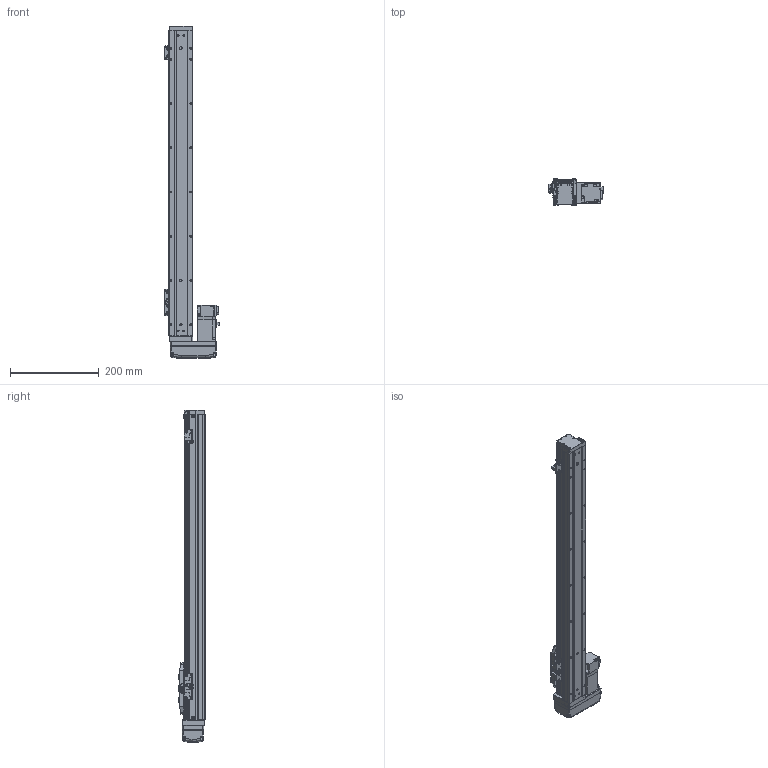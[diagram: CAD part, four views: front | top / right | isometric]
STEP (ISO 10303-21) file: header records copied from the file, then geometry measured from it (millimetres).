
FILE_DESCRIPTION (( 'STEP AP203' ), '1' );
FILE_NAME ('GTH5-550-BR-M10-C4.step', '2022-09-23T00:51:33', ( '微软用户' ), ( '微软中国' ), 'SwSTEP 2.0', 'SolidWorks 2020', '' );
FILE_SCHEMA (( 'CONFIG_CONTROL_DESIGN' ));
Length unit declared in the file: millimetre
Products named in the file (19): GTH50-006; GTH50-023; HG-KR13; GTH50-004; GBT 70.3-M3℅6; GBT 70.1-M3℅6; GTH50-027-1_BTHA50-027-2; BTH-M3X5X6; GBT96.1-2002 3×0.8; GTH50-026; GTH50-001_550; GTH50-024; GTH5-550-BR-M10-C4; GBT 70.1-M4×16; GBT 70.1-M2.5×6; GTH50-003; GTH50-028; GTH50-013; GTH50-022-1
Assembly tree (57 placements, depth 2):
  GTH5-550-BR-M10-C4
    GTH50-006
    GTH50-004
    GBT 70.3-M3℅6  x4
    BTH-M3X5X6  x8
    GTH50-001_550
    GBT 70.1-M4×16  x8
    GTH50-003
    GTH50-013
    GTH50-023  x3
    GBT 70.1-M3℅6  x12
    GBT96.1-2002 3×0.8  x6
    GTH50-024  x3
    GBT 70.1-M2.5×6  x2
    GTH50-028  x2
    GTH50-022-1
    HG-KR13
    GTH50-027-1_BTHA50-027-2
    GTH50-026
Bounding box: 123.6 x 60 x 750 mm (x, y, z)
Volume: 1714465.8 mm3; surface area: 292721.5 mm2
Topology: 59 solids, 59 shells, 2160 faces, 5016 edges, 3076 vertices
Faces by surface type: plane 1142, cylinder 589, cone 219, torus 162, bspline 40, sphere 8
Entity records: 40160 total; most frequent: CARTESIAN_POINT 7947, DIRECTION 6185, ORIENTED_EDGE 5946, EDGE_CURVE 2973, AXIS2_PLACEMENT_3D 2152, LINE 1881, VECTOR 1881, VERTEX_POINT 1878
